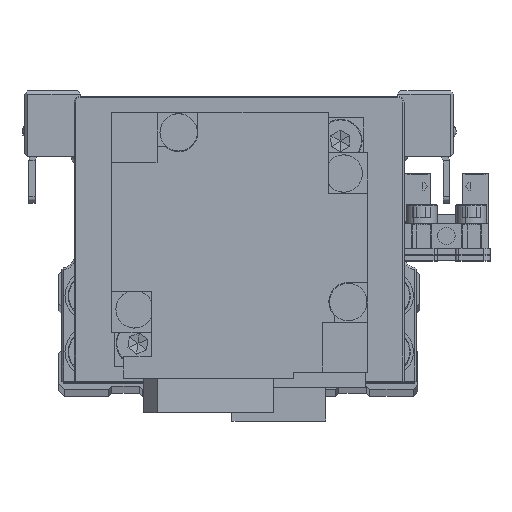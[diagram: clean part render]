
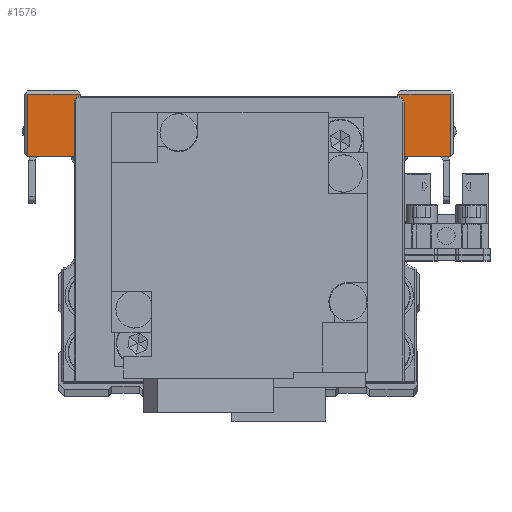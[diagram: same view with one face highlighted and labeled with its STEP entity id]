
A CAD part, top view. The second image highlights one B-rep face of the part: STEP entity #1576.
In plain terms, the highlighted planar face has unit normal (0, 0, 1) as drawn and (1, 0, 0) by its records, which use the part's own axes.
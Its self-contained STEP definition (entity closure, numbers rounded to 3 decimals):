
#174 = VERTEX_POINT ( 'NONE', #28408 ) ;
#177 = DIRECTION ( 'NONE',  ( 0., -1., 0. ) ) ;
#381 = ORIENTED_EDGE ( 'NONE', *, *, #4681, .T. ) ;
#407 = VERTEX_POINT ( 'NONE', #26942 ) ;
#634 = VECTOR ( 'NONE', #27779, 1000. ) ;
#791 = LINE ( 'NONE', #11760, #14756 ) ;
#1081 = ORIENTED_EDGE ( 'NONE', *, *, #27509, .F. ) ;
#1112 = DIRECTION ( 'NONE',  ( 0., 0., 1. ) ) ;
#1155 = CARTESIAN_POINT ( 'NONE',  ( 25.5, -6., 16.2 ) ) ;
#1371 = ORIENTED_EDGE ( 'NONE', *, *, #24925, .T. ) ;
#1552 = DIRECTION ( 'NONE',  ( 0., 0., 1. ) ) ;
#1576 = ADVANCED_FACE ( 'NONE', ( #28477 ), #3805, .F. ) ;
#2840 = CARTESIAN_POINT ( 'NONE',  ( 25.5, 15., 34. ) ) ;
#3309 = CARTESIAN_POINT ( 'NONE',  ( 25.5, 10.5, 25.5 ) ) ;
#3805 = PLANE ( 'NONE',  #5217 ) ;
#3980 = ORIENTED_EDGE ( 'NONE', *, *, #21645, .F. ) ;
#4681 = EDGE_CURVE ( 'NONE', #16202, #30790, #30076, .T. ) ;
#5195 = VECTOR ( 'NONE', #31334, 1000. ) ;
#5217 = AXIS2_PLACEMENT_3D ( 'NONE', #14775, #25765, #1112 ) ;
#5283 = EDGE_CURVE ( 'NONE', #12856, #5382, #25803, .T. ) ;
#5296 = CARTESIAN_POINT ( 'NONE',  ( 25.5, -6., -16.2 ) ) ;
#5368 = CARTESIAN_POINT ( 'NONE',  ( 25.5, 10.5, -25.5 ) ) ;
#5382 = VERTEX_POINT ( 'NONE', #31947 ) ;
#5387 = ORIENTED_EDGE ( 'NONE', *, *, #9508, .T. ) ;
#5405 = CARTESIAN_POINT ( 'NONE',  ( 25.5, 5., 34. ) ) ;
#5808 = LINE ( 'NONE', #16777, #634 ) ;
#6021 = DIRECTION ( 'NONE',  ( 0., -1., 0. ) ) ;
#6174 = DIRECTION ( 'NONE',  ( 0., 0., 1. ) ) ;
#6405 = CARTESIAN_POINT ( 'NONE',  ( 25.5, 10.5, 25.5 ) ) ;
#6553 = EDGE_CURVE ( 'NONE', #174, #16202, #27511, .T. ) ;
#6625 = VERTEX_POINT ( 'NONE', #14162 ) ;
#7562 = ORIENTED_EDGE ( 'NONE', *, *, #8240, .T. ) ;
#8240 = EDGE_CURVE ( 'NONE', #13996, #6625, #10363, .T. ) ;
#8676 = CARTESIAN_POINT ( 'NONE',  ( 25.5, 5., 16.5 ) ) ;
#9350 = LINE ( 'NONE', #20335, #5195 ) ;
#9445 = CARTESIAN_POINT ( 'NONE',  ( 25.5, 5., -34.5 ) ) ;
#9497 = CARTESIAN_POINT ( 'NONE',  ( 25.5, 5., -16.5 ) ) ;
#9508 = EDGE_CURVE ( 'NONE', #6625, #15753, #19850, .T. ) ;
#10084 = VECTOR ( 'NONE', #16376, 1000. ) ;
#10134 = VECTOR ( 'NONE', #1552, 1000. ) ;
#10363 = LINE ( 'NONE', #21346, #16852 ) ;
#11760 = CARTESIAN_POINT ( 'NONE',  ( 25.5, 10.5, -25.5 ) ) ;
#12114 = DIRECTION ( 'NONE',  ( 0., -0.707, -0.707 ) ) ;
#12199 = ORIENTED_EDGE ( 'NONE', *, *, #34267, .T. ) ;
#12444 = VECTOR ( 'NONE', #6174, 1000. ) ;
#12856 = VERTEX_POINT ( 'NONE', #14364 ) ;
#13149 = ORIENTED_EDGE ( 'NONE', *, *, #16323, .T. ) ;
#13808 = DIRECTION ( 'NONE',  ( 0., 0., 1. ) ) ;
#13846 = LINE ( 'NONE', #24839, #26648 ) ;
#13996 = VERTEX_POINT ( 'NONE', #18883 ) ;
#14162 = CARTESIAN_POINT ( 'NONE',  ( 25.5, 15., -34. ) ) ;
#14272 = DIRECTION ( 'NONE',  ( 0., 1., 0. ) ) ;
#14317 = ORIENTED_EDGE ( 'NONE', *, *, #29254, .F. ) ;
#14364 = CARTESIAN_POINT ( 'NONE',  ( 25.5, -5.7, 16.5 ) ) ;
#14756 = VECTOR ( 'NONE', #22748, 1000. ) ;
#14775 = CARTESIAN_POINT ( 'NONE',  ( 25.5, 5., -16.5 ) ) ;
#15200 = VECTOR ( 'NONE', #13808, 1000. ) ;
#15210 = LINE ( 'NONE', #26204, #10134 ) ;
#15552 = CARTESIAN_POINT ( 'NONE',  ( 25.5, 15., 34. ) ) ;
#15753 = VERTEX_POINT ( 'NONE', #29466 ) ;
#16202 = VERTEX_POINT ( 'NONE', #15552 ) ;
#16260 = DIRECTION ( 'NONE',  ( 0., 0.707, -0.707 ) ) ;
#16323 = EDGE_CURVE ( 'NONE', #35083, #407, #29976, .T. ) ;
#16376 = DIRECTION ( 'NONE',  ( 0., -1., 0. ) ) ;
#16777 = CARTESIAN_POINT ( 'NONE',  ( 25.5, 10.5, -25.5 ) ) ;
#16852 = VECTOR ( 'NONE', #32348, 1000. ) ;
#16908 = VERTEX_POINT ( 'NONE', #8676 ) ;
#18324 = ORIENTED_EDGE ( 'NONE', *, *, #26158, .T. ) ;
#18883 = CARTESIAN_POINT ( 'NONE',  ( 25.5, 5., -34. ) ) ;
#19303 = VECTOR ( 'NONE', #14272, 1000. ) ;
#19698 = LINE ( 'NONE', #30700, #32043 ) ;
#19850 = LINE ( 'NONE', #30848, #12444 ) ;
#20134 = CARTESIAN_POINT ( 'NONE',  ( 25.5, -6., -16.2 ) ) ;
#20335 = CARTESIAN_POINT ( 'NONE',  ( 25.5, 5., -34.5 ) ) ;
#20429 = DIRECTION ( 'NONE',  ( 0., 0., -1. ) ) ;
#21289 = VECTOR ( 'NONE', #16260, 1000. ) ;
#21346 = CARTESIAN_POINT ( 'NONE',  ( 25.5, 5., -34. ) ) ;
#21645 = EDGE_CURVE ( 'NONE', #33170, #407, #13846, .T. ) ;
#21702 = VECTOR ( 'NONE', #12114, 1000. ) ;
#22371 = CARTESIAN_POINT ( 'NONE',  ( 25.5, 5., 34. ) ) ;
#22748 = DIRECTION ( 'NONE',  ( 0., 0., -1. ) ) ;
#24520 = ORIENTED_EDGE ( 'NONE', *, *, #28495, .F. ) ;
#24839 = CARTESIAN_POINT ( 'NONE',  ( 25.5, 5., -16.5 ) ) ;
#24925 = EDGE_CURVE ( 'NONE', #30790, #16908, #9350, .T. ) ;
#25765 = DIRECTION ( 'NONE',  ( -1., 0., 0. ) ) ;
#25803 = LINE ( 'NONE', #1155, #21702 ) ;
#26158 = EDGE_CURVE ( 'NONE', #33582, #174, #27990, .T. ) ;
#26204 = CARTESIAN_POINT ( 'NONE',  ( 25.5, -6., 16.5 ) ) ;
#26217 = ORIENTED_EDGE ( 'NONE', *, *, #6553, .T. ) ;
#26648 = VECTOR ( 'NONE', #177, 1000. ) ;
#26942 = CARTESIAN_POINT ( 'NONE',  ( 25.5, -5.7, -16.5 ) ) ;
#27447 = EDGE_CURVE ( 'NONE', #16908, #12856, #19698, .T. ) ;
#27509 = EDGE_CURVE ( 'NONE', #33582, #30301, #791, .T. ) ;
#27511 = LINE ( 'NONE', #2840, #15200 ) ;
#27548 = VECTOR ( 'NONE', #20429, 1000. ) ;
#27779 = DIRECTION ( 'NONE',  ( 0., 1., 0. ) ) ;
#27990 = LINE ( 'NONE', #3309, #19303 ) ;
#28050 = ORIENTED_EDGE ( 'NONE', *, *, #27447, .T. ) ;
#28408 = CARTESIAN_POINT ( 'NONE',  ( 25.5, 15., 25.5 ) ) ;
#28477 = FACE_OUTER_BOUND ( 'NONE', #29269, .T. ) ;
#28495 = EDGE_CURVE ( 'NONE', #35083, #5382, #15210, .T. ) ;
#29254 = EDGE_CURVE ( 'NONE', #30301, #15753, #5808, .T. ) ;
#29269 = EDGE_LOOP ( 'NONE', ( #18324, #26217, #381, #1371, #28050, #32442, #24520, #13149, #3980, #12199, #7562, #5387, #14317, #1081 ) ) ;
#29466 = CARTESIAN_POINT ( 'NONE',  ( 25.5, 15., -25.5 ) ) ;
#29976 = LINE ( 'NONE', #5296, #21289 ) ;
#30076 = LINE ( 'NONE', #5405, #10084 ) ;
#30301 = VERTEX_POINT ( 'NONE', #5368 ) ;
#30700 = CARTESIAN_POINT ( 'NONE',  ( 25.5, 5., 16.5 ) ) ;
#30790 = VERTEX_POINT ( 'NONE', #22371 ) ;
#30848 = CARTESIAN_POINT ( 'NONE',  ( 25.5, 15., -25.5 ) ) ;
#31334 = DIRECTION ( 'NONE',  ( 0., 0., -1. ) ) ;
#31947 = CARTESIAN_POINT ( 'NONE',  ( 25.5, -6., 16.2 ) ) ;
#32043 = VECTOR ( 'NONE', #6021, 1000. ) ;
#32348 = DIRECTION ( 'NONE',  ( 0., 1., 0. ) ) ;
#32442 = ORIENTED_EDGE ( 'NONE', *, *, #5283, .T. ) ;
#33170 = VERTEX_POINT ( 'NONE', #9497 ) ;
#33582 = VERTEX_POINT ( 'NONE', #6405 ) ;
#34137 = LINE ( 'NONE', #9445, #27548 ) ;
#34267 = EDGE_CURVE ( 'NONE', #33170, #13996, #34137, .T. ) ;
#35083 = VERTEX_POINT ( 'NONE', #20134 ) ;
